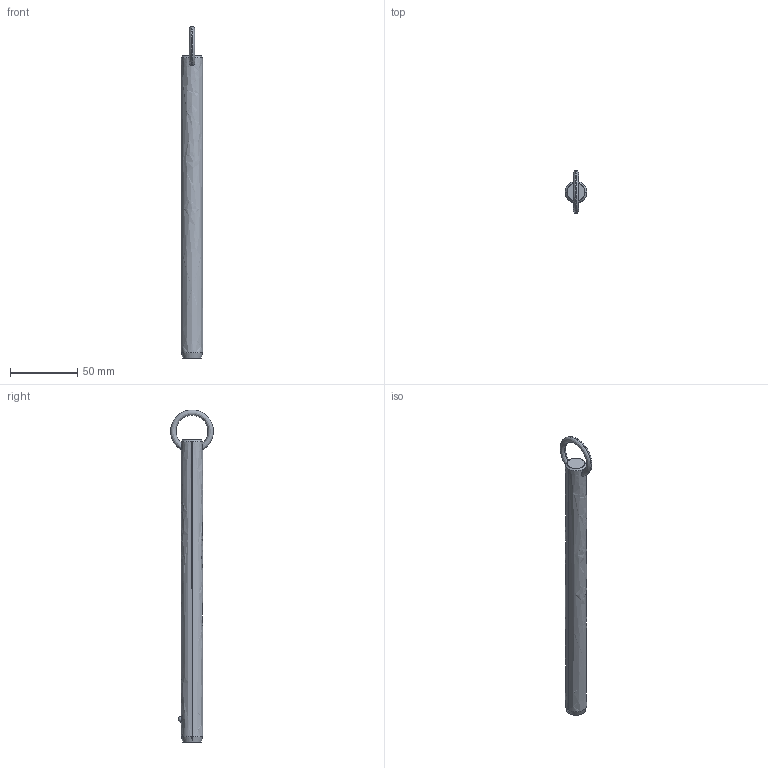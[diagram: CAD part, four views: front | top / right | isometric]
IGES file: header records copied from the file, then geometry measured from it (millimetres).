
Start section: SolidWorks IGES file using analytic representation for surfaces
Global section: file name: C:\Users\liam_\OneDrive\Documents\WORK\Work for WixRoyd\Job Files\J-00019 - Matt Davis CAD Checking\04. CAD Drawings\automotion20190605\P1250.2_v2\P1250.2_v2_20190729_IGES\P1250.062-770.igs; native system: SolidWorks 2017; preprocessor: SolidWorks 2017; author: liam_; date: 190729.234538; units: millimetre
Bounding box: 15.8 x 31.69 x 246.3 mm (x, y, z)
Surface area: 12297.5 mm2 (no closed solid volume)
Topology: 0 solids, 0 shells, 12 faces, 292 edges, 290 vertices
Faces by surface type: revolution 8, bspline 4
